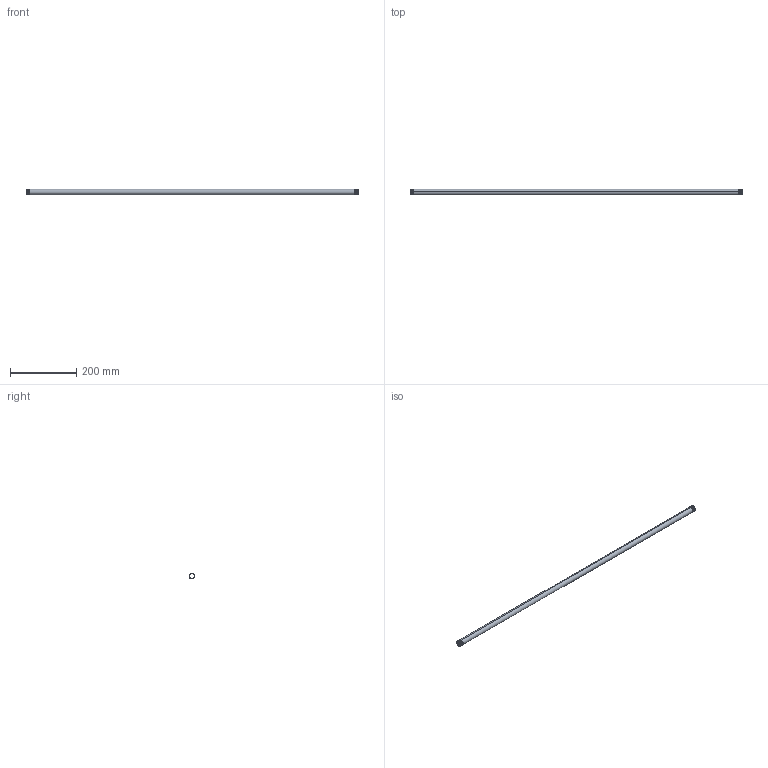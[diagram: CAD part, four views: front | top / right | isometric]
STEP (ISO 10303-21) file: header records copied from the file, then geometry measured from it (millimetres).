
FILE_DESCRIPTION (( 'STEP AP203' ), '1' );
FILE_NAME ('3D_R210_3-8x1000_17191610.STEP', '2024-08-16T14:49:48', ( '' ), ( '' ), 'SwSTEP 2.0', 'SolidWorks 2024', '' );
FILE_SCHEMA (( 'CONFIG_CONTROL_DESIGN' ));
Length unit declared in the file: millimetre
Products named in the file (1): 3D_R210_3-8x1000_17191610
Bounding box: 1000 x 17.19 x 17.2 mm (x, y, z)
Volume: 95185.8 mm3; surface area: 96157.3 mm2
Topology: 1 solids, 1 shells, 60 faces, 166 edges, 108 vertices
Faces by surface type: cone 46, bspline 6, cylinder 4, plane 4
Entity records: 8905 total; most frequent: CARTESIAN_POINT 7503, ORIENTED_EDGE 332, DIRECTION 194, EDGE_CURVE 166, VERTEX_POINT 108, B_SPLINE_CURVE_WITH_KNOTS 88, AXIS2_PLACEMENT_3D 69, EDGE_LOOP 62
